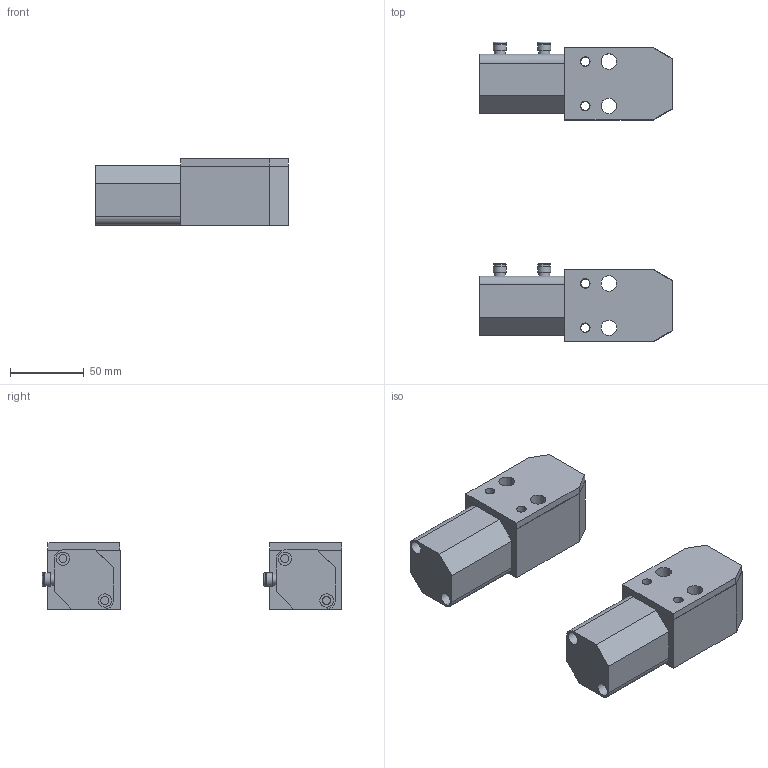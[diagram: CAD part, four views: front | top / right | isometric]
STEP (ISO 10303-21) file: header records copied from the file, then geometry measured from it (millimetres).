
FILE_DESCRIPTION(('STEP AP214'),'1');
FILE_NAME('1004.0013.stp','2020-05-22T14:12:48',(' '),(' '),'Spatial InterOp 3D',' ',' ');
FILE_SCHEMA(('AUTOMOTIVE_DESIGN { 1 0 10303 214 1 1 1 1 }'));
Length unit declared in the file: millimetre
Products named in the file (7): (PMS) 1004.0013; 3; 2; Assemblato; (PMI) 1004.0013; 5; 4
Assembly tree (6 placements, depth 3):
  Assemblato
    (PMS) 1004.0013
      3
      2
    (PMI) 1004.0013
      5
      4
Bounding box: 130.5 x 202.75 x 45 mm (x, y, z)
Volume: 421274.1 mm3; surface area: 81591 mm2
Topology: 4 solids, 4 shells, 734 faces, 1944 edges, 1296 vertices
Faces by surface type: extrusion 372, plane 264, cylinder 86, torus 12
Full cylindrical faces by diameter (mm): 5.5 x4, 6 x4, 6.5 x4, 7.5 x8, 9 x12, 10.5 x4, 13 x4, 17 x6
Entity records: 28862 total; most frequent: CARTESIAN_POINT 6133, ORIENTED_EDGE 3748, DIRECTION 2434, EDGE_CURVE 1874, VECTOR 1312, VERTEX_POINT 1284, B_SPLINE_CURVE_WITH_KNOTS 1116, LINE 940
